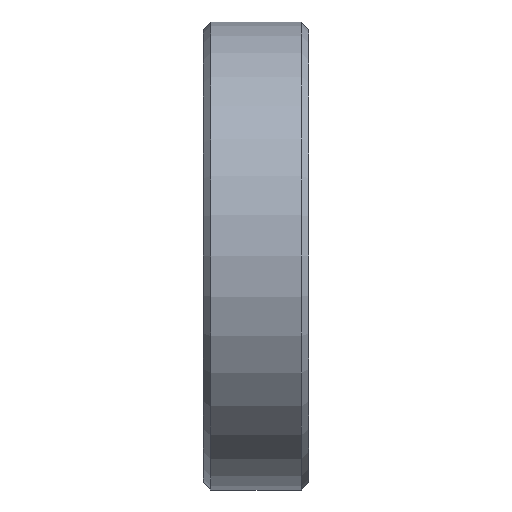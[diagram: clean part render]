
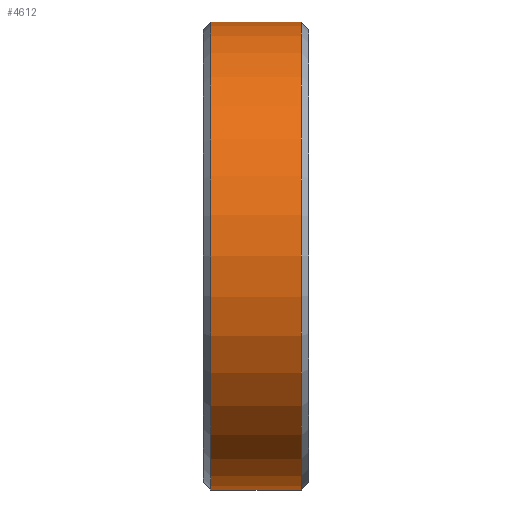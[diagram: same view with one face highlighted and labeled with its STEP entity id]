
A CAD part, left-side view. The second image highlights one B-rep face of the part: STEP entity #4612.
In plain terms, the highlighted cylindrical face has radius 15.5 mm (diameter 31 mm), a partial arc.
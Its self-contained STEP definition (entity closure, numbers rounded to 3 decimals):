
#137 = CARTESIAN_POINT ( 'NONE',  ( 0., 3., -15.5 ) ) ;
#146 = ORIENTED_EDGE ( 'NONE', *, *, #2809, .T. ) ;
#179 = VERTEX_POINT ( 'NONE', #4386 ) ;
#198 = CARTESIAN_POINT ( 'NONE',  ( 0., 2.5, 15.5 ) ) ;
#310 = EDGE_LOOP ( 'NONE', ( #1201, #815, #895, #4015, #146, #2583 ) ) ;
#347 = CARTESIAN_POINT ( 'NONE',  ( 0., 3., 0. ) ) ;
#623 = DIRECTION ( 'NONE',  ( 0., 0., 1. ) ) ;
#713 = LINE ( 'NONE', #137, #1843 ) ;
#726 = VERTEX_POINT ( 'NONE', #198 ) ;
#780 = CIRCLE ( 'NONE', #1837, 15.5 ) ;
#815 = ORIENTED_EDGE ( 'NONE', *, *, #4591, .F. ) ;
#825 = CARTESIAN_POINT ( 'NONE',  ( 0., 3., 15.5 ) ) ;
#895 = ORIENTED_EDGE ( 'NONE', *, *, #3615, .T. ) ;
#952 = EDGE_CURVE ( 'NONE', #2280, #4458, #4508, .T. ) ;
#1028 = CIRCLE ( 'NONE', #1862, 15.5 ) ;
#1201 = ORIENTED_EDGE ( 'NONE', *, *, #4360, .F. ) ;
#1270 = CARTESIAN_POINT ( 'NONE',  ( 0., 0.5, -15.5 ) ) ;
#1369 = CARTESIAN_POINT ( 'NONE',  ( 0., 3., -15.5 ) ) ;
#1370 = VECTOR ( 'NONE', #2785, 1000. ) ;
#1371 = LINE ( 'NONE', #3231, #3169 ) ;
#1401 = CARTESIAN_POINT ( 'NONE',  ( 0., 0.5, 15.5 ) ) ;
#1446 = CARTESIAN_POINT ( 'NONE',  ( 0., -3.5, 0. ) ) ;
#1788 = CYLINDRICAL_SURFACE ( 'NONE', #4379, 15.5 ) ;
#1837 = AXIS2_PLACEMENT_3D ( 'NONE', #1446, #3973, #2142 ) ;
#1843 = VECTOR ( 'NONE', #4077, 1000. ) ;
#1862 = AXIS2_PLACEMENT_3D ( 'NONE', #2394, #4242, #623 ) ;
#2142 = DIRECTION ( 'NONE',  ( 0., 0., 1. ) ) ;
#2280 = VERTEX_POINT ( 'NONE', #3689 ) ;
#2316 = DIRECTION ( 'NONE',  ( 0., -1., 0. ) ) ;
#2394 = CARTESIAN_POINT ( 'NONE',  ( 0., 2.5, 0. ) ) ;
#2442 = DIRECTION ( 'NONE',  ( 0., -1., 0. ) ) ;
#2511 = FACE_OUTER_BOUND ( 'NONE', #310, .T. ) ;
#2583 = ORIENTED_EDGE ( 'NONE', *, *, #4173, .T. ) ;
#2785 = DIRECTION ( 'NONE',  ( 0., -1., 0. ) ) ;
#2809 = EDGE_CURVE ( 'NONE', #4458, #3171, #713, .T. ) ;
#3169 = VECTOR ( 'NONE', #2442, 1000. ) ;
#3171 = VERTEX_POINT ( 'NONE', #3273 ) ;
#3231 = CARTESIAN_POINT ( 'NONE',  ( 0., 3., 15.5 ) ) ;
#3273 = CARTESIAN_POINT ( 'NONE',  ( 0., -3.5, -15.5 ) ) ;
#3312 = LINE ( 'NONE', #825, #3541 ) ;
#3541 = VECTOR ( 'NONE', #2316, 1000. ) ;
#3615 = EDGE_CURVE ( 'NONE', #726, #2280, #1028, .T. ) ;
#3689 = CARTESIAN_POINT ( 'NONE',  ( 0., 2.5, -15.5 ) ) ;
#3973 = DIRECTION ( 'NONE',  ( 0., 1., 0. ) ) ;
#4015 = ORIENTED_EDGE ( 'NONE', *, *, #952, .T. ) ;
#4077 = DIRECTION ( 'NONE',  ( 0., -1., 0. ) ) ;
#4173 = EDGE_CURVE ( 'NONE', #3171, #179, #780, .T. ) ;
#4202 = DIRECTION ( 'NONE',  ( 0., -1., 0. ) ) ;
#4204 = VERTEX_POINT ( 'NONE', #1401 ) ;
#4242 = DIRECTION ( 'NONE',  ( 0., -1., 0. ) ) ;
#4360 = EDGE_CURVE ( 'NONE', #4204, #179, #3312, .T. ) ;
#4379 = AXIS2_PLACEMENT_3D ( 'NONE', #347, #4202, #4594 ) ;
#4386 = CARTESIAN_POINT ( 'NONE',  ( 0., -3.5, 15.5 ) ) ;
#4458 = VERTEX_POINT ( 'NONE', #1270 ) ;
#4508 = LINE ( 'NONE', #1369, #1370 ) ;
#4591 = EDGE_CURVE ( 'NONE', #726, #4204, #1371, .T. ) ;
#4594 = DIRECTION ( 'NONE',  ( 0., 0., -1. ) ) ;
#4612 = ADVANCED_FACE ( 'NONE', ( #2511 ), #1788, .T. ) ;
